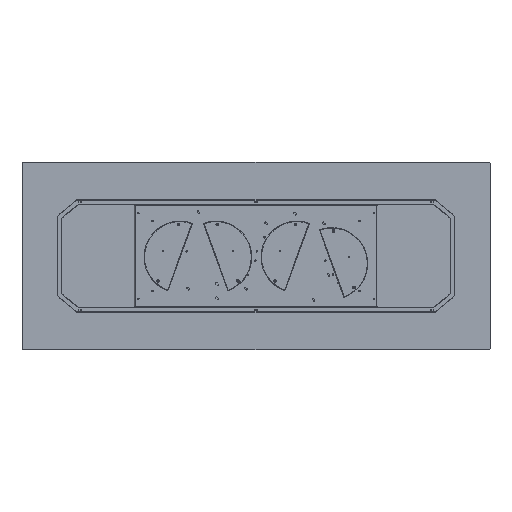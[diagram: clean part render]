
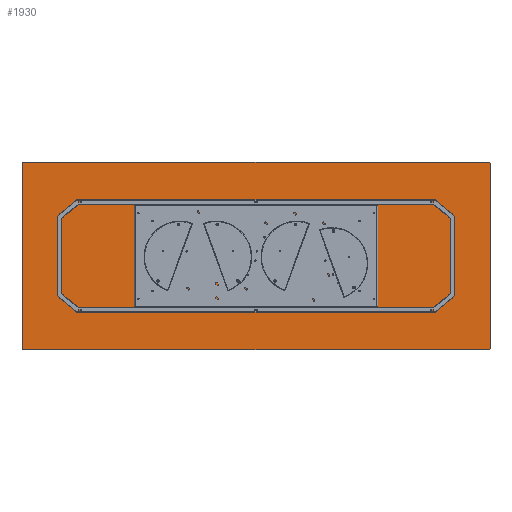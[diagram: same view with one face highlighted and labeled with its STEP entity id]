
A CAD part, front view. The second image highlights one B-rep face of the part: STEP entity #1930.
In plain terms, the highlighted planar face has unit normal (0, -1, 0).
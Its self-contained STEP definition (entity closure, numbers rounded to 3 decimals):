
#53 = CARTESIAN_POINT ( 'NONE',  ( 1500., 0., 595. ) ) ;
#129 = AXIS2_PLACEMENT_3D ( 'NONE', #15488, #5128, #4852 ) ;
#553 = DIRECTION ( 'NONE',  ( 0., 0., 1. ) ) ;
#880 = VERTEX_POINT ( 'NONE', #10586 ) ;
#1577 = VECTOR ( 'NONE', #14781, 1000. ) ;
#1737 = ORIENTED_EDGE ( 'NONE', *, *, #14321, .T. ) ;
#1862 = ORIENTED_EDGE ( 'NONE', *, *, #12346, .F. ) ;
#1930 = ADVANCED_FACE ( 'NONE', ( #6988 ), #11285, .F. ) ;
#2824 = VERTEX_POINT ( 'NONE', #7730 ) ;
#3020 = DIRECTION ( 'NONE',  ( -1., 0., 0. ) ) ;
#3106 = ORIENTED_EDGE ( 'NONE', *, *, #18961, .T. ) ;
#3276 = CARTESIAN_POINT ( 'NONE',  ( -1495., 0., 595. ) ) ;
#4080 = CARTESIAN_POINT ( 'NONE',  ( -1500., 0., 600. ) ) ;
#4322 = VECTOR ( 'NONE', #18915, 1000. ) ;
#4852 = DIRECTION ( 'NONE',  ( 0., 0., 1. ) ) ;
#5010 = CARTESIAN_POINT ( 'NONE',  ( 1500., 0., -600. ) ) ;
#5128 = DIRECTION ( 'NONE',  ( 0., -1., 0. ) ) ;
#5702 = CARTESIAN_POINT ( 'NONE',  ( -1500., 0., -600. ) ) ;
#6041 = EDGE_CURVE ( 'NONE', #12018, #15458, #6156, .T. ) ;
#6138 = AXIS2_PLACEMENT_3D ( 'NONE', #14699, #10292, #16636 ) ;
#6156 = CIRCLE ( 'NONE', #10816, 5. ) ;
#6322 = CARTESIAN_POINT ( 'NONE',  ( -1500., 0., -600. ) ) ;
#6436 = CIRCLE ( 'NONE', #6138, 5. ) ;
#6566 = CIRCLE ( 'NONE', #9997, 5. ) ;
#6589 = EDGE_CURVE ( 'NONE', #11405, #15458, #15456, .T. ) ;
#6938 = VERTEX_POINT ( 'NONE', #17695 ) ;
#6976 = EDGE_CURVE ( 'NONE', #880, #6938, #8461, .T. ) ;
#6988 = FACE_OUTER_BOUND ( 'NONE', #10377, .T. ) ;
#7278 = DIRECTION ( 'NONE',  ( 0., 0., 1. ) ) ;
#7436 = ORIENTED_EDGE ( 'NONE', *, *, #6589, .F. ) ;
#7730 = CARTESIAN_POINT ( 'NONE',  ( -1500., 0., 595. ) ) ;
#8239 = AXIS2_PLACEMENT_3D ( 'NONE', #8548, #9736, #18623 ) ;
#8461 = LINE ( 'NONE', #4080, #4322 ) ;
#8484 = CARTESIAN_POINT ( 'NONE',  ( 1500., 0., -595. ) ) ;
#8548 = CARTESIAN_POINT ( 'NONE',  ( 0., 0., 0. ) ) ;
#9101 = ORIENTED_EDGE ( 'NONE', *, *, #6976, .F. ) ;
#9222 = DIRECTION ( 'NONE',  ( 0., -1., 0. ) ) ;
#9718 = EDGE_CURVE ( 'NONE', #880, #2824, #6566, .T. ) ;
#9736 = DIRECTION ( 'NONE',  ( 0., 1., 0. ) ) ;
#9752 = CARTESIAN_POINT ( 'NONE',  ( 1495., 0., -600. ) ) ;
#9997 = AXIS2_PLACEMENT_3D ( 'NONE', #3276, #9222, #553 ) ;
#10292 = DIRECTION ( 'NONE',  ( 0., -1., 0. ) ) ;
#10328 = VERTEX_POINT ( 'NONE', #18760 ) ;
#10377 = EDGE_LOOP ( 'NONE', ( #7436, #1737, #9101, #19023, #13740, #3106, #1862, #14051 ) ) ;
#10586 = CARTESIAN_POINT ( 'NONE',  ( -1495., 0., 600. ) ) ;
#10816 = AXIS2_PLACEMENT_3D ( 'NONE', #14713, #18023, #7278 ) ;
#11285 = PLANE ( 'NONE',  #8239 ) ;
#11405 = VERTEX_POINT ( 'NONE', #53 ) ;
#11785 = EDGE_CURVE ( 'NONE', #10328, #2824, #12200, .T. ) ;
#12018 = VERTEX_POINT ( 'NONE', #9752 ) ;
#12200 = LINE ( 'NONE', #5702, #1577 ) ;
#12324 = DIRECTION ( 'NONE',  ( 0., 0., -1. ) ) ;
#12346 = EDGE_CURVE ( 'NONE', #12018, #17033, #13743, .T. ) ;
#12717 = VECTOR ( 'NONE', #12324, 1000. ) ;
#13740 = ORIENTED_EDGE ( 'NONE', *, *, #11785, .F. ) ;
#13743 = LINE ( 'NONE', #6322, #14401 ) ;
#14051 = ORIENTED_EDGE ( 'NONE', *, *, #6041, .T. ) ;
#14321 = EDGE_CURVE ( 'NONE', #11405, #6938, #15699, .T. ) ;
#14401 = VECTOR ( 'NONE', #3020, 1000. ) ;
#14699 = CARTESIAN_POINT ( 'NONE',  ( -1495., 0., -595. ) ) ;
#14713 = CARTESIAN_POINT ( 'NONE',  ( 1495., 0., -595. ) ) ;
#14781 = DIRECTION ( 'NONE',  ( 0., 0., 1. ) ) ;
#15456 = LINE ( 'NONE', #5010, #12717 ) ;
#15458 = VERTEX_POINT ( 'NONE', #8484 ) ;
#15488 = CARTESIAN_POINT ( 'NONE',  ( 1495., 0., 595. ) ) ;
#15699 = CIRCLE ( 'NONE', #129, 5. ) ;
#16636 = DIRECTION ( 'NONE',  ( 0., 0., 1. ) ) ;
#17033 = VERTEX_POINT ( 'NONE', #17253 ) ;
#17253 = CARTESIAN_POINT ( 'NONE',  ( -1495., 0., -600. ) ) ;
#17695 = CARTESIAN_POINT ( 'NONE',  ( 1495., 0., 600. ) ) ;
#18023 = DIRECTION ( 'NONE',  ( 0., -1., 0. ) ) ;
#18623 = DIRECTION ( 'NONE',  ( 0., 0., 1. ) ) ;
#18760 = CARTESIAN_POINT ( 'NONE',  ( -1500., 0., -595. ) ) ;
#18915 = DIRECTION ( 'NONE',  ( 1., 0., 0. ) ) ;
#18961 = EDGE_CURVE ( 'NONE', #10328, #17033, #6436, .T. ) ;
#19023 = ORIENTED_EDGE ( 'NONE', *, *, #9718, .T. ) ;
